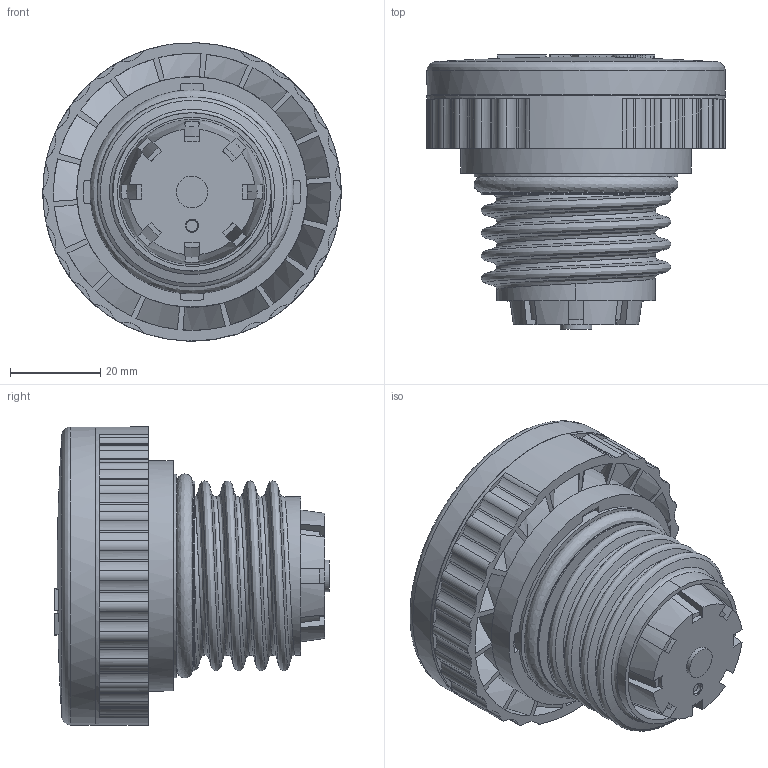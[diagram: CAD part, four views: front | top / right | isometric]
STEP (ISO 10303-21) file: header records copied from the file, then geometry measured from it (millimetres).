
FILE_DESCRIPTION((''),'2;1');
FILE_NAME('U:\Users\r.stiegele\L1_0706-07(29144100).stp', '2014-03-11T11:53:10',('User'),('SDRC'),'I-DEAS Master Series 9','UNIX', 'Yes');
FILE_SCHEMA(('AUTOMOTIVE_DESIGN { 1 0 10303 214 1 1 1 1 }'));
Length unit declared in the file: millimetre
Products named in the file (1): 27987900(271749)
Bounding box: 66 x 60.7 x 65.96 mm (x, y, z)
Volume: 104848.3 mm3; surface area: 27097.2 mm2
Topology: 1 solids, 1 shells, 594 faces, 1614 edges, 1045 vertices
Faces by surface type: bspline 594
Entity records: 22181 total; most frequent: CARTESIAN_POINT 13028, ORIENTED_EDGE 3226, EDGE_CURVE 1613, VERTEX_POINT 1045, EDGE_LOOP 618, FACE_OUTER_BOUND 594, ADVANCED_FACE 594, B_SPLINE_CURVE_WITH_KNOTS 526
